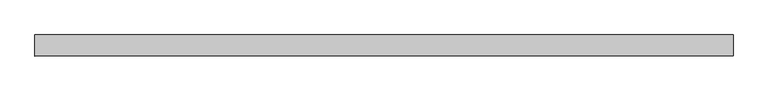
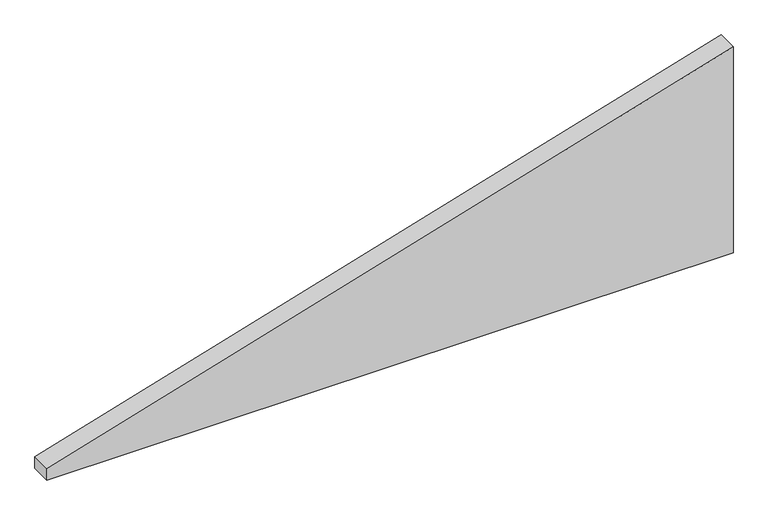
"""IFC4 building model written with IfcOpenShell, lengths in millimetres: plate geometry, Panneau système : Vitre 4cm."""

from ifc_helpers import new_model, si_unit, frame, origin, place, context, project, spatial, polyline, outline, extrude, source, transform, mapped, element, save


def plate_f1e9bc76(model_context):
    return source(origin(), model_context, "Body", "SweptSolid", [
        extrude(outline(polyline([(0.0, -662.5), (0.0, 662.5), (420.464843, 662.5), (22.964843, -662.5), (0.0, -662.5)])), frame((0.0, -20.0, 0.0), z_axis=(0.0, 1.0, 0.0), x_axis=(0.0, 0.0, 1.0)), (0.0, 0.0, 1.0), 40.0),
    ])


if __name__ == "__main__":
    model = new_model("IFC4")
    model_context = context("Model", 3, world=origin())
    ifc_project = project(units=[si_unit("LENGTHUNIT", "METRE", prefix="MILLI")], contexts=[model_context])
    site = spatial("IfcSite", under=ifc_project)
    building = spatial("IfcBuilding", under=site)
    placement = place(None, origin())
    plate_shape = plate_f1e9bc76(model_context)
    element("IfcPlate", 1, ObjectType="Panneau système : Vitre 4cm", at=placement, inside=building, context=model_context, shape_type="MappedRepresentation", body=[
        mapped(plate_shape, transform((0.0, 0.0, 0.0), x_axis=(1.0, 0.0, 0.0), y_axis=(0.0, 1.0, 0.0), z_axis=(0.0, 0.0, 1.0))),
    ])
    save(model, "model.ifc")
